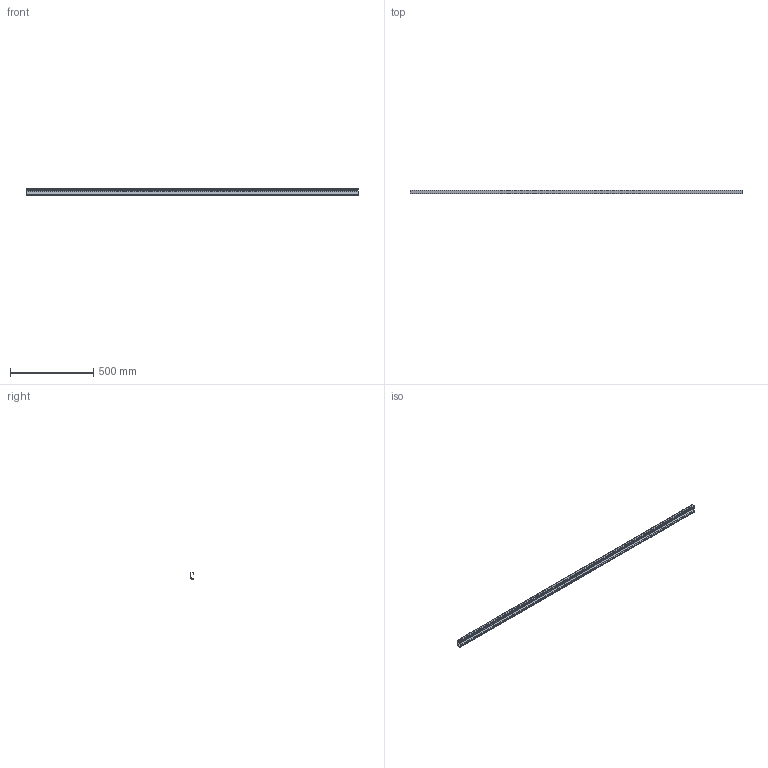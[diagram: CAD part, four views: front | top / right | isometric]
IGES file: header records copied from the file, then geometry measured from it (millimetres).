
Start section: Data from Parasolid IGES Translator 15.0.47, Copyright(c) 2006 Siemens P LM Software. All Rights Reserved.
Global section: file name: 115090.igs; native system:  By UGS Corp.; preprocessor: XPlus GENERIC/IGES 3.0; author: Noname; organization: Noname; date: 20140122.175347; units: millimetre
Bounding box: 2000 x 22.5 x 47.5 mm (x, y, z)
Surface area: 391447.8 mm2 (no closed solid volume)
Topology: 0 solids, 0 shells, 61 faces, 332 edges, 332 vertices
Faces by surface type: extrusion 42, revolution 19
